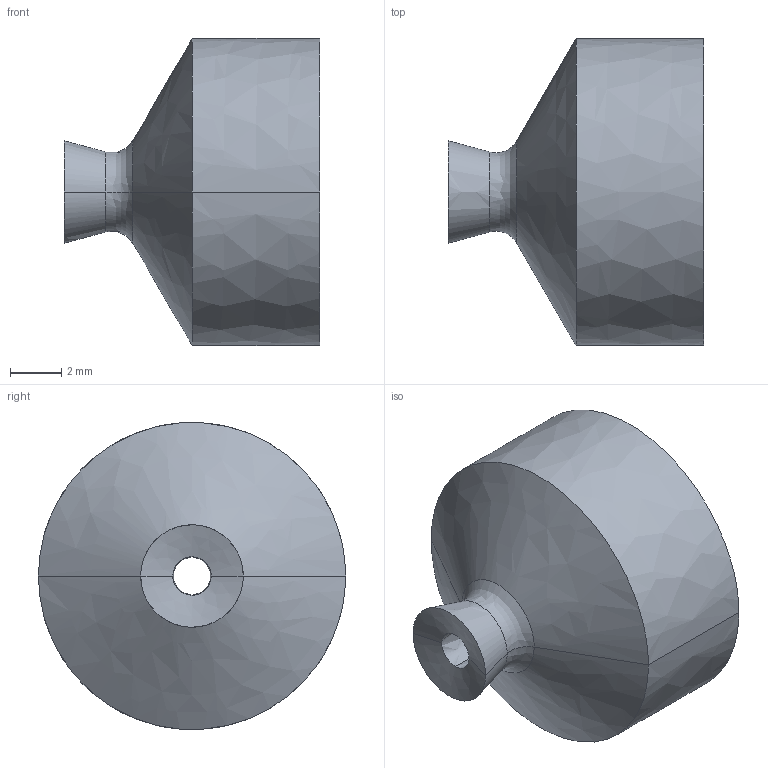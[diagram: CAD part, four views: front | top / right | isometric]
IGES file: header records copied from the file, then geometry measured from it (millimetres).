
Start section:  PTC IGES file: 210700_vaph-4c.igs
Global section: file name: 210700_vaph-4c.igs; native system: Pro/ENGINEER by Parametric Technology Corporation; preprocessor: 2004090; author: KAIHATSU01; organization: Unknown; date: 061017.105005; units: millimetre
Bounding box: 10 x 12 x 12 mm (x, y, z)
Volume: 521.8 mm3; surface area: 650.9 mm2
Topology: 1 solids, 1 shells, 19 faces, 40 edges, 24 vertices
Faces by surface type: bspline 19
